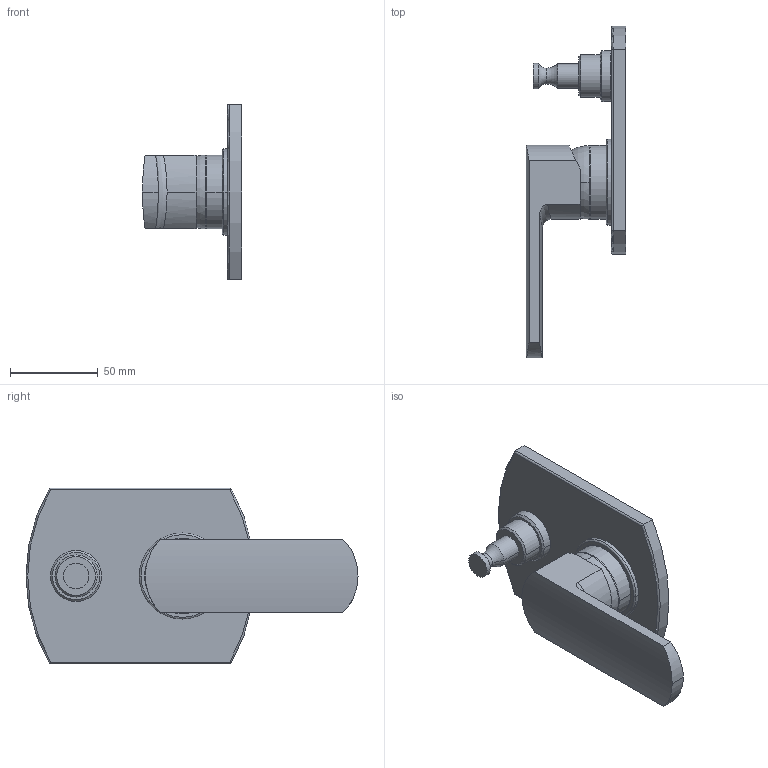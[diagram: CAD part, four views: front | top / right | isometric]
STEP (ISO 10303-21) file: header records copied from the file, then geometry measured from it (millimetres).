
FILE_DESCRIPTION(('CoCreate Modeling STEP Export'),'2;1');
FILE_NAME('86.691.stp','2012-06-04T10:08:01',(''),(''),'CoCreate Modeling STEP processor for AP214 (Solid Model)','CoCreate Modeling 17.0 01-Apr-2010 (C) Parametric Technology GmbH','');
FILE_SCHEMA(('AUTOMOTIVE_DESIGN { 1 0 10303 214 1 1 1 1 }'));
Length unit declared in the file: millimetre
Products named in the file (4): tr; maniglia; 691-ovo; 86.691.stp
Assembly tree (3 placements, depth 3):
  86.691.stp
    691-ovo
      maniglia
      tr
Bounding box: 56.41 x 189 x 100 mm (x, y, z)
Volume: 215641.1 mm3; surface area: 48191.6 mm2
Topology: 2 solids, 3 shells, 62 faces, 134 edges, 81 vertices
Faces by surface type: cylinder 24, torus 18, plane 13, cone 6, bspline 1
Entity records: 3128 total; most frequent: CARTESIAN_POINT 1812, ORIENTED_EDGE 268, DIRECTION 228, EDGE_CURVE 134, AXIS2_PLACEMENT_3D 91, VERTEX_POINT 81, EDGE_LOOP 67, FACE_OUTER_BOUND 62
